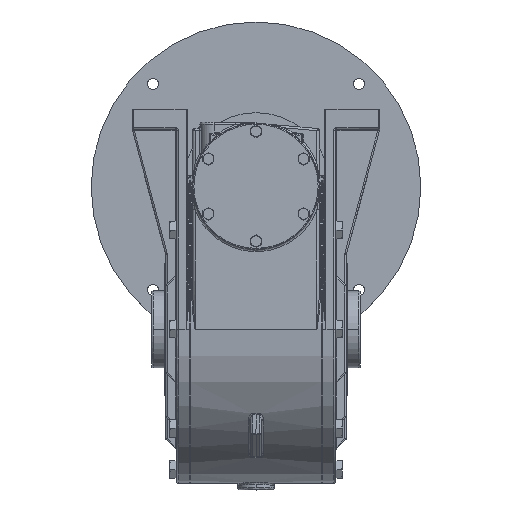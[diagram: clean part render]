
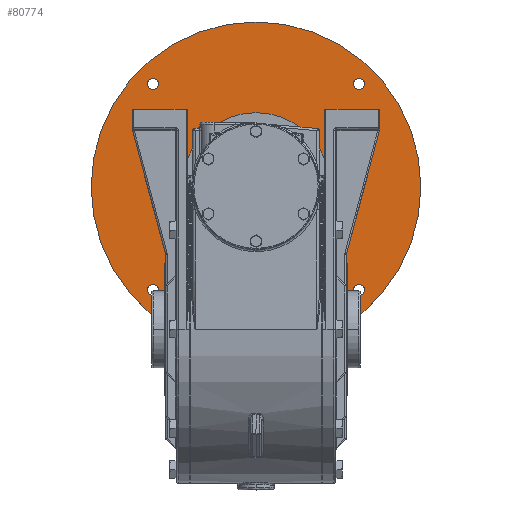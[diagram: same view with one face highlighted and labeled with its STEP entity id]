
A CAD part, top view. The second image highlights one B-rep face of the part: STEP entity #80774.
In plain terms, the highlighted planar face has unit normal (0, 0, 1).
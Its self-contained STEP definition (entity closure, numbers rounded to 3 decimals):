
#80600 = ORIENTED_EDGE ( 'NONE', *, *, #80764, .T. ) ;
#80602 = ORIENTED_EDGE ( 'NONE', *, *, #80604, .T. ) ;
#80604 = EDGE_CURVE ( 'NONE', #80637, #80765, #104669, .T. ) ;
#80637 = VERTEX_POINT ( 'NONE', #104747 ) ;
#80639 = VERTEX_POINT ( 'NONE', #104745 ) ;
#80641 = EDGE_CURVE ( 'NONE', #80642, #80639, #104740, .T. ) ;
#80642 = VERTEX_POINT ( 'NONE', #104733 ) ;
#80676 = VERTEX_POINT ( 'NONE', #104869 ) ;
#80691 = EDGE_CURVE ( 'NONE', #80692, #80773, #104933, .T. ) ;
#80692 = VERTEX_POINT ( 'NONE', #104925 ) ;
#80698 = EDGE_CURVE ( 'NONE', #80699, #80700, #104904, .T. ) ;
#80699 = VERTEX_POINT ( 'NONE', #104899 ) ;
#80700 = VERTEX_POINT ( 'NONE', #104898 ) ;
#80741 = EDGE_LOOP ( 'NONE', ( #80742, #80744 ) ) ;
#80742 = ORIENTED_EDGE ( 'NONE', *, *, #80641, .T. ) ;
#80744 = ORIENTED_EDGE ( 'NONE', *, *, #80746, .T. ) ;
#80746 = EDGE_CURVE ( 'NONE', #80639, #80642, #105056, .T. ) ;
#80747 = EDGE_LOOP ( 'NONE', ( #80750, #80838 ) ) ;
#80750 = ORIENTED_EDGE ( 'NONE', *, *, #80833, .T. ) ;
#80762 = VERTEX_POINT ( 'NONE', #105102 ) ;
#80764 = EDGE_CURVE ( 'NONE', #80765, #80637, #105099, .T. ) ;
#80765 = VERTEX_POINT ( 'NONE', #105092 ) ;
#80773 = VERTEX_POINT ( 'NONE', #105077 ) ;
#80774 = ADVANCED_FACE ( 'NONE', ( #105076, #105075, #105074, #105073, #105072, #105071 ), #105067, .T. ) ;
#80775 = ORIENTED_EDGE ( 'NONE', *, *, #80861, .T. ) ;
#80776 = ORIENTED_EDGE ( 'NONE', *, *, #80777, .T. ) ;
#80777 = EDGE_CURVE ( 'NONE', #80676, #80862, #105150, .T. ) ;
#80778 = EDGE_LOOP ( 'NONE', ( #80779, #80781 ) ) ;
#80779 = ORIENTED_EDGE ( 'NONE', *, *, #80780, .T. ) ;
#80780 = EDGE_CURVE ( 'NONE', #80700, #80699, #105141, .T. ) ;
#80781 = ORIENTED_EDGE ( 'NONE', *, *, #80698, .T. ) ;
#80782 = EDGE_LOOP ( 'NONE', ( #81079, #81087 ) ) ;
#80833 = EDGE_CURVE ( 'NONE', #80834, #80762, #105263, .T. ) ;
#80834 = VERTEX_POINT ( 'NONE', #105258 ) ;
#80838 = ORIENTED_EDGE ( 'NONE', *, *, #80840, .T. ) ;
#80840 = EDGE_CURVE ( 'NONE', #80762, #80834, #105310, .T. ) ;
#80841 = EDGE_LOOP ( 'NONE', ( #80600, #80602 ) ) ;
#80861 = EDGE_CURVE ( 'NONE', #80862, #80676, #105341, .T. ) ;
#80862 = VERTEX_POINT ( 'NONE', #105327 ) ;
#80866 = EDGE_LOOP ( 'NONE', ( #80775, #80776 ) ) ;
#81079 = ORIENTED_EDGE ( 'NONE', *, *, #80691, .T. ) ;
#81087 = ORIENTED_EDGE ( 'NONE', *, *, #81109, .T. ) ;
#81109 = EDGE_CURVE ( 'NONE', #80773, #80692, #105872, .T. ) ;
#104665 = DIRECTION ( 'NONE',  ( 1., 0., 0. ) ) ;
#104666 = DIRECTION ( 'NONE',  ( 0., 0., -1. ) ) ;
#104667 = CARTESIAN_POINT ( 'NONE',  ( 90.538, 94.348, -153.436 ) ) ;
#104668 = AXIS2_PLACEMENT_3D ( 'NONE', #104667, #104666, #104665 ) ;
#104669 = CIRCLE ( 'NONE', #104668, 5.053 ) ;
#104733 = CARTESIAN_POINT ( 'NONE',  ( -91.792, 94.348, -153.436 ) ) ;
#104735 = DIRECTION ( 'NONE',  ( 1., 0., 0. ) ) ;
#104736 = DIRECTION ( 'NONE',  ( 0., 0., -1. ) ) ;
#104737 = CARTESIAN_POINT ( 'NONE',  ( -96.845, 94.348, -153.436 ) ) ;
#104739 = AXIS2_PLACEMENT_3D ( 'NONE', #104737, #104736, #104735 ) ;
#104740 = CIRCLE ( 'NONE', #104739, 5.053 ) ;
#104745 = CARTESIAN_POINT ( 'NONE',  ( -101.898, 94.348, -153.436 ) ) ;
#104747 = CARTESIAN_POINT ( 'NONE',  ( 85.485, 94.348, -153.436 ) ) ;
#104869 = CARTESIAN_POINT ( 'NONE',  ( 64.347, 0.657, -153.436 ) ) ;
#104898 = CARTESIAN_POINT ( 'NONE',  ( -153.153, 0.657, -153.436 ) ) ;
#104899 = CARTESIAN_POINT ( 'NONE',  ( 146.847, 0.657, -153.436 ) ) ;
#104900 = DIRECTION ( 'NONE',  ( -1., 0., 0. ) ) ;
#104901 = DIRECTION ( 'NONE',  ( 0., 0., 1. ) ) ;
#104902 = CARTESIAN_POINT ( 'NONE',  ( -3.153, 0.657, -153.436 ) ) ;
#104903 = AXIS2_PLACEMENT_3D ( 'NONE', #104902, #104901, #104900 ) ;
#104904 = CIRCLE ( 'NONE', #104903, 150. ) ;
#104925 = CARTESIAN_POINT ( 'NONE',  ( -91.792, -93.035, -153.436 ) ) ;
#104926 = DIRECTION ( 'NONE',  ( 1., 0., 0. ) ) ;
#104927 = DIRECTION ( 'NONE',  ( 0., 0., -1. ) ) ;
#104929 = CARTESIAN_POINT ( 'NONE',  ( -96.845, -93.035, -153.436 ) ) ;
#104931 = AXIS2_PLACEMENT_3D ( 'NONE', #104929, #104927, #104926 ) ;
#104933 = CIRCLE ( 'NONE', #104931, 5.053 ) ;
#105050 = DIRECTION ( 'NONE',  ( 1., 0., 0. ) ) ;
#105052 = DIRECTION ( 'NONE',  ( 0., 0., -1. ) ) ;
#105054 = CARTESIAN_POINT ( 'NONE',  ( -96.845, 94.348, -153.436 ) ) ;
#105055 = AXIS2_PLACEMENT_3D ( 'NONE', #105054, #105052, #105050 ) ;
#105056 = CIRCLE ( 'NONE', #105055, 5.053 ) ;
#105067 = PLANE ( 'NONE',  #105070 ) ;
#105069 = CARTESIAN_POINT ( 'NONE',  ( -80.051, -76.241, -153.436 ) ) ;
#105070 = AXIS2_PLACEMENT_3D ( 'NONE', #105069, #105149, #105148 ) ;
#105071 = FACE_BOUND ( 'NONE', #80841, .T. ) ;
#105072 = FACE_BOUND ( 'NONE', #80747, .T. ) ;
#105073 = FACE_BOUND ( 'NONE', #80741, .T. ) ;
#105074 = FACE_BOUND ( 'NONE', #80782, .T. ) ;
#105075 = FACE_OUTER_BOUND ( 'NONE', #80778, .T. ) ;
#105076 = FACE_BOUND ( 'NONE', #80866, .T. ) ;
#105077 = CARTESIAN_POINT ( 'NONE',  ( -101.898, -93.035, -153.436 ) ) ;
#105092 = CARTESIAN_POINT ( 'NONE',  ( 95.591, 94.348, -153.436 ) ) ;
#105093 = DIRECTION ( 'NONE',  ( 1., 0., 0. ) ) ;
#105094 = DIRECTION ( 'NONE',  ( 0., 0., -1. ) ) ;
#105096 = CARTESIAN_POINT ( 'NONE',  ( 90.538, 94.348, -153.436 ) ) ;
#105098 = AXIS2_PLACEMENT_3D ( 'NONE', #105096, #105094, #105093 ) ;
#105099 = CIRCLE ( 'NONE', #105098, 5.053 ) ;
#105102 = CARTESIAN_POINT ( 'NONE',  ( 85.485, -93.035, -153.436 ) ) ;
#105137 = DIRECTION ( 'NONE',  ( -1., 0., 0. ) ) ;
#105138 = DIRECTION ( 'NONE',  ( 0., 0., 1. ) ) ;
#105139 = CARTESIAN_POINT ( 'NONE',  ( -3.153, 0.657, -153.436 ) ) ;
#105140 = AXIS2_PLACEMENT_3D ( 'NONE', #105139, #105138, #105137 ) ;
#105141 = CIRCLE ( 'NONE', #105140, 150. ) ;
#105144 = DIRECTION ( 'NONE',  ( -1., 0., 0. ) ) ;
#105145 = DIRECTION ( 'NONE',  ( 0., 0., -1. ) ) ;
#105146 = CARTESIAN_POINT ( 'NONE',  ( -3.153, 0.657, -153.436 ) ) ;
#105147 = AXIS2_PLACEMENT_3D ( 'NONE', #105146, #105145, #105144 ) ;
#105148 = DIRECTION ( 'NONE',  ( 0., -1., 0. ) ) ;
#105149 = DIRECTION ( 'NONE',  ( 0., 0., 1. ) ) ;
#105150 = CIRCLE ( 'NONE', #105147, 67.5 ) ;
#105258 = CARTESIAN_POINT ( 'NONE',  ( 95.591, -93.035, -153.436 ) ) ;
#105259 = DIRECTION ( 'NONE',  ( 1., 0., 0. ) ) ;
#105260 = DIRECTION ( 'NONE',  ( 0., 0., -1. ) ) ;
#105261 = CARTESIAN_POINT ( 'NONE',  ( 90.538, -93.035, -153.436 ) ) ;
#105262 = AXIS2_PLACEMENT_3D ( 'NONE', #105261, #105260, #105259 ) ;
#105263 = CIRCLE ( 'NONE', #105262, 5.053 ) ;
#105306 = DIRECTION ( 'NONE',  ( 1., 0., 0. ) ) ;
#105307 = DIRECTION ( 'NONE',  ( 0., 0., -1. ) ) ;
#105308 = CARTESIAN_POINT ( 'NONE',  ( 90.538, -93.035, -153.436 ) ) ;
#105309 = AXIS2_PLACEMENT_3D ( 'NONE', #105308, #105307, #105306 ) ;
#105310 = CIRCLE ( 'NONE', #105309, 5.053 ) ;
#105327 = CARTESIAN_POINT ( 'NONE',  ( -70.653, 0.657, -153.436 ) ) ;
#105328 = DIRECTION ( 'NONE',  ( -1., 0., 0. ) ) ;
#105329 = DIRECTION ( 'NONE',  ( 0., 0., -1. ) ) ;
#105330 = CARTESIAN_POINT ( 'NONE',  ( -3.153, 0.657, -153.436 ) ) ;
#105332 = AXIS2_PLACEMENT_3D ( 'NONE', #105330, #105329, #105328 ) ;
#105341 = CIRCLE ( 'NONE', #105332, 67.5 ) ;
#105865 = DIRECTION ( 'NONE',  ( 1., 0., 0. ) ) ;
#105868 = DIRECTION ( 'NONE',  ( 0., 0., -1. ) ) ;
#105871 = AXIS2_PLACEMENT_3D ( 'NONE', #105881, #105868, #105865 ) ;
#105872 = CIRCLE ( 'NONE', #105871, 5.053 ) ;
#105881 = CARTESIAN_POINT ( 'NONE',  ( -96.845, -93.035, -153.436 ) ) ;
